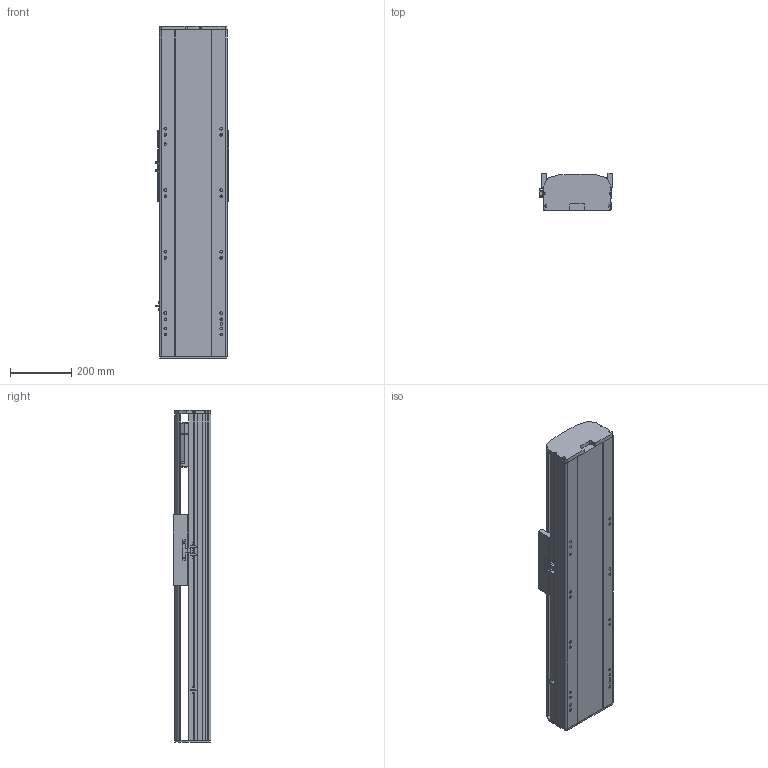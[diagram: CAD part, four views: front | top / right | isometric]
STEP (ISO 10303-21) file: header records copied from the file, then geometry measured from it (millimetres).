
FILE_DESCRIPTION (( 'STEP AP214' ), '1' );
FILE_NAME ('RTH22-XX-450-B-M75B-C4.STEP', '2025-10-24T10:07:21', ( 'Microsoft' ), ( 'Microsoft' ), 'SwSTEP 2.0', 'SolidWorks 2018', '' );
FILE_SCHEMA (( 'AUTOMOTIVE_DESIGN' ));
Length unit declared in the file: millimetre
Products named in the file (9): N_RTH22-E-004-SFS25賑釱^RTH22-XX-XX-B-M75B-C4; N_OMRON EE-SX672 传感器^RTH22-XX-XX-B-M75B-C4; N_750W萇儂^RTH22-XX-XX-B-M75B-C4; N_RTH22-GY-001耜裔^RTH22-XX-XX-B-M75B-C4; N_RTH22-B008萇儂啣^RTH22-XX-XX-B-M75B-C4; RTH22-XX-450-B-M75B-C4; N_RTH22-B-011B菁釱^RTH22-XX-XX-B-M75B-C4; N_RTH22-GY-013外置感应片^RTH22-XX-XX-B-M75B-C4; N_RTH22-B-007B奻裔^RTH22-XX-XX-B-M75B-C4
Assembly tree (10 placements, depth 2):
  RTH22-XX-450-B-M75B-C4
    N_RTH22-B-011B菁釱^RTH22-XX-XX-B-M75B-C4
    N_RTH22-GY-001耜裔^RTH22-XX-XX-B-M75B-C4
    N_750W萇儂^RTH22-XX-XX-B-M75B-C4
    N_RTH22-B008萇儂啣^RTH22-XX-XX-B-M75B-C4
    N_RTH22-B-007B奻裔^RTH22-XX-XX-B-M75B-C4
    N_OMRON EE-SX672 传感器^RTH22-XX-XX-B-M75B-C4  x3
    N_RTH22-GY-013外置感应片^RTH22-XX-XX-B-M75B-C4
    N_RTH22-E-004-SFS25賑釱^RTH22-XX-XX-B-M75B-C4
Bounding box: 238.5 x 122 x 1080 mm (x, y, z)
Volume: 15524810.7 mm3; surface area: 1623944.4 mm2
Topology: 10 solids, 10 shells, 1497 faces, 4100 edges, 2653 vertices
Faces by surface type: plane 750, cylinder 418, bspline 279, cone 50
Entity records: 36775 total; most frequent: CARTESIAN_POINT 11549, ORIENTED_EDGE 5192, DIRECTION 4834, EDGE_CURVE 2596, VERTEX_POINT 1689, LINE 1614, VECTOR 1614, AXIS2_PLACEMENT_3D 1610
